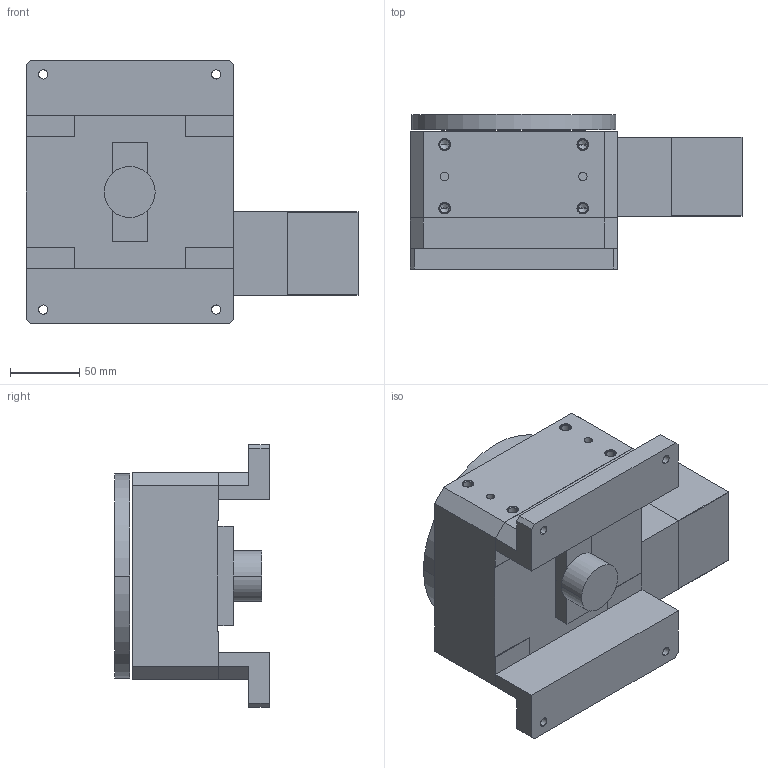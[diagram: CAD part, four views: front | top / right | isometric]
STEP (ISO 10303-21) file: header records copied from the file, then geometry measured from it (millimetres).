
FILE_DESCRIPTION((''),'2;1');
FILE_NAME('R150M7M22E1_ASM','2009-07-02T',('FK20128'),(''),'PRO/ENGINEER BY PARAMETRIC TECHNOLOGY CORPORATION, 2006200','PRO/ENGINEER BY PARAMETRIC TECHNOLOGY CORPORATION, 2006200','');
FILE_SCHEMA(('CONFIG_CONTROL_DESIGN'));
Length unit declared in the file: millimetre
Products named in the file (7): R150M; R150M-M22; R150M-ENCODER-BRKT; R150M-ENCODER-STANDOFF; RXXXM-ENCODER; R150M-E1_ASM; R150M7M22E1_ASM
Assembly tree (7 placements, depth 3):
  R150M7M22E1_ASM
    R150M
    R150M-M22
    R150M-E1_ASM
      R150M-ENCODER-BRKT
      R150M-ENCODER-STANDOFF  x2
      RXXXM-ENCODER
Bounding box: 240.12 x 111.83 x 190 mm (x, y, z)
Volume: 2119981 mm3; surface area: 235900.8 mm2
Topology: 7 solids, 27 shells, 291 faces, 707 edges, 468 vertices
Faces by surface type: cylinder 154, plane 111, cone 26
Entity records: 7987 total; most frequent: DIRECTION 1521, CARTESIAN_POINT 1326, ORIENTED_EDGE 1170, EDGE_CURVE 621, AXIS2_PLACEMENT_3D 615, VERTEX_POINT 420, EDGE_LOOP 349, CIRCLE 330
